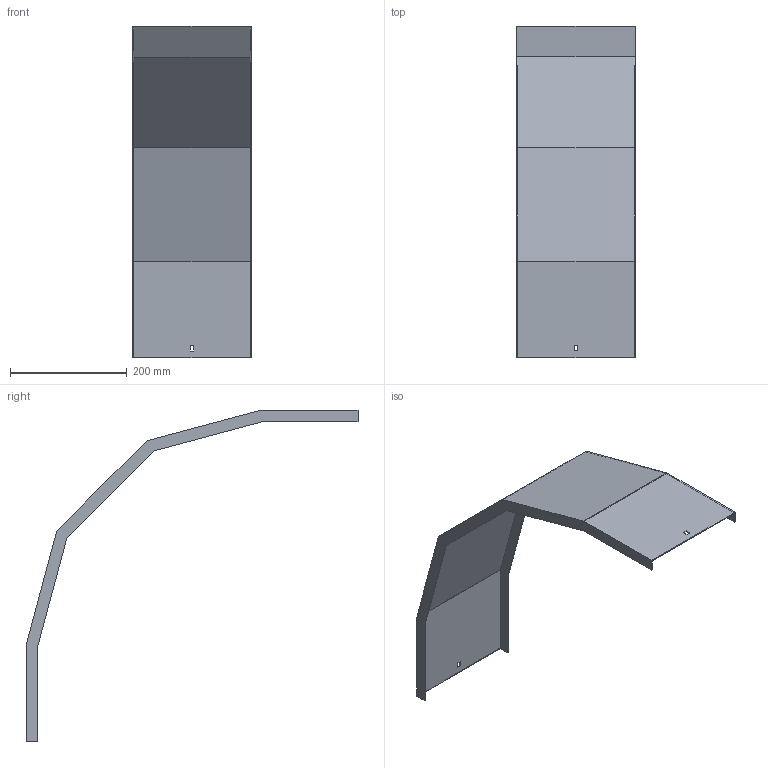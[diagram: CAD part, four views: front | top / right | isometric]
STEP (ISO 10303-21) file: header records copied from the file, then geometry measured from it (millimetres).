
FILE_DESCRIPTION (( 'STEP AP214' ), '1' );
FILE_NAME ('A2_33N3D200.step', '2025-02-21T10:44:53', ( '' ), ( '' ), 'SwSTEP 2.0', 'SolidWorks 2023', '' );
FILE_SCHEMA (( 'AUTOMOTIVE_DESIGN' ));
Length unit declared in the file: millimetre
Products named in the file (1): A2_33N3D200
Bounding box: 203 x 569.61 x 569.61 mm (x, y, z)
Volume: 343014.3 mm3; surface area: 460944.1 mm2
Topology: 1 solids, 1 shells, 34 faces, 96 edges, 64 vertices
Faces by surface type: plane 34
Entity records: 1111 total; most frequent: CARTESIAN_POINT 195, ORIENTED_EDGE 192, DIRECTION 166, LINE 96, EDGE_CURVE 96, VECTOR 96, VERTEX_POINT 64, EDGE_LOOP 38
